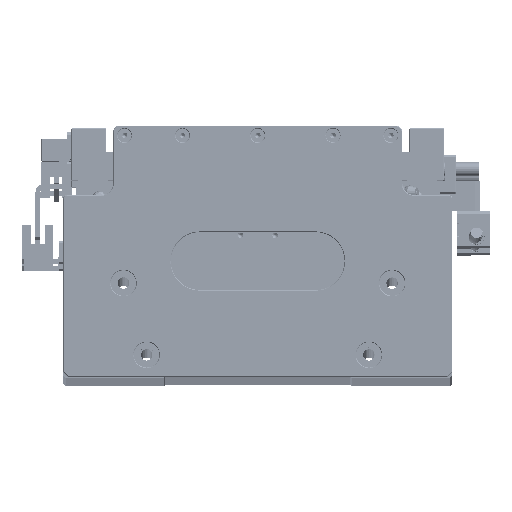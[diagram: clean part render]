
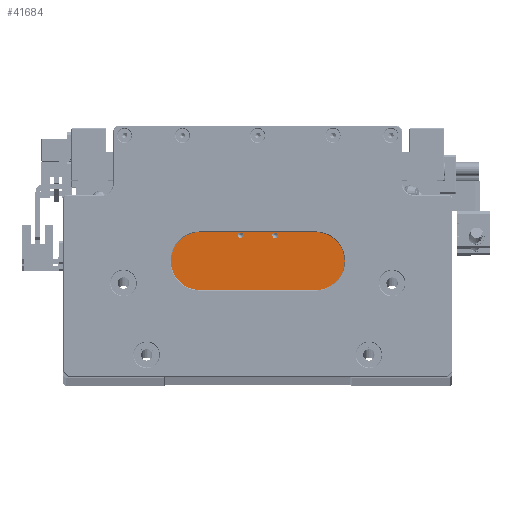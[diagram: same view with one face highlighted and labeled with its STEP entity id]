
A CAD part, top view. The second image highlights one B-rep face of the part: STEP entity #41684.
In plain terms, the highlighted planar face has unit normal (0, 0, 1).
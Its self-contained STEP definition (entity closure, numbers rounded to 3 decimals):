
#278 = LINE ( 'NONE', #29616, #48658 ) ;
#1316 = VERTEX_POINT ( 'NONE', #40761 ) ;
#2680 = DIRECTION ( 'NONE',  ( 1., 0., 0. ) ) ;
#3798 = DIRECTION ( 'NONE',  ( 1., 0., 0. ) ) ;
#4485 = CARTESIAN_POINT ( 'NONE',  ( -33.5, -8., 125. ) ) ;
#5199 = ORIENTED_EDGE ( 'NONE', *, *, #83996, .T. ) ;
#5669 = ORIENTED_EDGE ( 'NONE', *, *, #52669, .T. ) ;
#5983 = DIRECTION ( 'NONE',  ( -1., 0., 0. ) ) ;
#6159 = VERTEX_POINT ( 'NONE', #73689 ) ;
#6492 = FACE_BOUND ( 'NONE', #120025, .T. ) ;
#7037 = VERTEX_POINT ( 'NONE', #68811 ) ;
#7286 = VECTOR ( 'NONE', #122985, 1000. ) ;
#7753 = CARTESIAN_POINT ( 'NONE',  ( 45., 0., 125. ) ) ;
#7803 = CIRCLE ( 'NONE', #58838, 1.25 ) ;
#11745 = ORIENTED_EDGE ( 'NONE', *, *, #114357, .T. ) ;
#12604 = FACE_BOUND ( 'NONE', #106944, .T. ) ;
#14253 = VECTOR ( 'NONE', #5983, 1000. ) ;
#15683 = ORIENTED_EDGE ( 'NONE', *, *, #28802, .T. ) ;
#16569 = LINE ( 'NONE', #35277, #64950 ) ;
#16922 = DIRECTION ( 'NONE',  ( 0., 0., -1. ) ) ;
#18283 = CIRCLE ( 'NONE', #46241, 1.25 ) ;
#18320 = VECTOR ( 'NONE', #62552, 1000. ) ;
#20164 = ORIENTED_EDGE ( 'NONE', *, *, #33420, .T. ) ;
#20378 = CIRCLE ( 'NONE', #38238, 1.25 ) ;
#21000 = CARTESIAN_POINT ( 'NONE',  ( -8.75, -8., 125. ) ) ;
#21311 = PLANE ( 'NONE',  #29206 ) ;
#26263 = DIRECTION ( 'NONE',  ( 0., 0., -1. ) ) ;
#26567 = CARTESIAN_POINT ( 'NONE',  ( 0., -8., 125. ) ) ;
#27602 = ORIENTED_EDGE ( 'NONE', *, *, #48182, .T. ) ;
#28664 = VERTEX_POINT ( 'NONE', #4485 ) ;
#28802 = EDGE_CURVE ( 'NONE', #48516, #6159, #16569, .T. ) ;
#29206 = AXIS2_PLACEMENT_3D ( 'NONE', #69535, #98706, #40709 ) ;
#29616 = CARTESIAN_POINT ( 'NONE',  ( 0., -8., 125. ) ) ;
#32309 = CARTESIAN_POINT ( 'NONE',  ( -6.25, -8., 125. ) ) ;
#33420 = EDGE_CURVE ( 'NONE', #87506, #62978, #20378, .T. ) ;
#34694 = VERTEX_POINT ( 'NONE', #99723 ) ;
#35277 = CARTESIAN_POINT ( 'NONE',  ( -45., 0., 125. ) ) ;
#35624 = EDGE_LOOP ( 'NONE', ( #27602, #15683, #92688, #5199, #58319, #121845, #11745, #92693 ) ) ;
#36154 = EDGE_CURVE ( 'NONE', #34694, #119521, #83395, .T. ) ;
#38238 = AXIS2_PLACEMENT_3D ( 'NONE', #118533, #60631, #2680 ) ;
#39974 = ORIENTED_EDGE ( 'NONE', *, *, #48389, .T. ) ;
#40709 = DIRECTION ( 'NONE',  ( 1., 0., 0. ) ) ;
#40761 = CARTESIAN_POINT ( 'NONE',  ( -33.5, 0., 125. ) ) ;
#41684 = ADVANCED_FACE ( 'NONE', ( #63978, #12604, #6492 ), #21311, .T. ) ;
#41876 = LINE ( 'NONE', #7753, #64566 ) ;
#42915 = CARTESIAN_POINT ( 'NONE',  ( 33.5, 0., 125. ) ) ;
#46241 = AXIS2_PLACEMENT_3D ( 'NONE', #84260, #26263, #93979 ) ;
#47028 = DIRECTION ( 'NONE',  ( 0., 1., 0. ) ) ;
#47511 = VECTOR ( 'NONE', #81850, 1000. ) ;
#48042 = EDGE_CURVE ( 'NONE', #55082, #102262, #63829, .T. ) ;
#48182 = EDGE_CURVE ( 'NONE', #28664, #48516, #278, .T. ) ;
#48389 = EDGE_CURVE ( 'NONE', #62978, #87506, #7803, .T. ) ;
#48516 = VERTEX_POINT ( 'NONE', #73548 ) ;
#48658 = VECTOR ( 'NONE', #78305, 1000. ) ;
#49793 = CARTESIAN_POINT ( 'NONE',  ( 8.75, -8., 125. ) ) ;
#52669 = EDGE_CURVE ( 'NONE', #102262, #55082, #18283, .T. ) ;
#55082 = VERTEX_POINT ( 'NONE', #32309 ) ;
#57645 = EDGE_CURVE ( 'NONE', #72693, #6159, #67186, .T. ) ;
#58319 = ORIENTED_EDGE ( 'NONE', *, *, #71430, .T. ) ;
#58714 = LINE ( 'NONE', #26567, #7286 ) ;
#58838 = AXIS2_PLACEMENT_3D ( 'NONE', #119651, #61702, #3798 ) ;
#58932 = CARTESIAN_POINT ( 'NONE',  ( 33.5, 0., 125. ) ) ;
#60631 = DIRECTION ( 'NONE',  ( 0., 0., -1. ) ) ;
#60962 = CARTESIAN_POINT ( 'NONE',  ( 45., -40.2, 125. ) ) ;
#61251 = AXIS2_PLACEMENT_3D ( 'NONE', #74885, #16922, #84614 ) ;
#61702 = DIRECTION ( 'NONE',  ( 0., 0., -1. ) ) ;
#62552 = DIRECTION ( 'NONE',  ( 0., -1., 0. ) ) ;
#62734 = CARTESIAN_POINT ( 'NONE',  ( 45., -40.2, 125. ) ) ;
#62978 = VERTEX_POINT ( 'NONE', #49793 ) ;
#63829 = CIRCLE ( 'NONE', #61251, 1.25 ) ;
#63978 = FACE_OUTER_BOUND ( 'NONE', #35624, .T. ) ;
#64566 = VECTOR ( 'NONE', #47028, 1000. ) ;
#64950 = VECTOR ( 'NONE', #93287, 1000. ) ;
#66732 = LINE ( 'NONE', #91783, #18320 ) ;
#67186 = LINE ( 'NONE', #62734, #47511 ) ;
#68713 = LINE ( 'NONE', #93140, #14253 ) ;
#68811 = CARTESIAN_POINT ( 'NONE',  ( 45., -8., 125. ) ) ;
#69535 = CARTESIAN_POINT ( 'NONE',  ( 0., 0., 125. ) ) ;
#71430 = EDGE_CURVE ( 'NONE', #7037, #34694, #58714, .T. ) ;
#72693 = VERTEX_POINT ( 'NONE', #60962 ) ;
#73548 = CARTESIAN_POINT ( 'NONE',  ( -45., -8., 125. ) ) ;
#73689 = CARTESIAN_POINT ( 'NONE',  ( -45., -40.2, 125. ) ) ;
#74885 = CARTESIAN_POINT ( 'NONE',  ( -7.5, -8., 125. ) ) ;
#78305 = DIRECTION ( 'NONE',  ( -1., 0., 0. ) ) ;
#81850 = DIRECTION ( 'NONE',  ( -1., 0., 0. ) ) ;
#83395 = LINE ( 'NONE', #42915, #106015 ) ;
#83996 = EDGE_CURVE ( 'NONE', #72693, #7037, #41876, .T. ) ;
#84260 = CARTESIAN_POINT ( 'NONE',  ( -7.5, -8., 125. ) ) ;
#84614 = DIRECTION ( 'NONE',  ( 1., 0., 0. ) ) ;
#87506 = VERTEX_POINT ( 'NONE', #88544 ) ;
#88544 = CARTESIAN_POINT ( 'NONE',  ( 6.25, -8., 125. ) ) ;
#91218 = DIRECTION ( 'NONE',  ( 0., 1., 0. ) ) ;
#91783 = CARTESIAN_POINT ( 'NONE',  ( -33.5, 0., 125. ) ) ;
#92688 = ORIENTED_EDGE ( 'NONE', *, *, #57645, .F. ) ;
#92693 = ORIENTED_EDGE ( 'NONE', *, *, #103448, .T. ) ;
#93140 = CARTESIAN_POINT ( 'NONE',  ( 0., 0., 125. ) ) ;
#93287 = DIRECTION ( 'NONE',  ( 0., -1., 0. ) ) ;
#93979 = DIRECTION ( 'NONE',  ( 1., 0., 0. ) ) ;
#98706 = DIRECTION ( 'NONE',  ( 0., 0., 1. ) ) ;
#99723 = CARTESIAN_POINT ( 'NONE',  ( 33.5, -8., 125. ) ) ;
#102262 = VERTEX_POINT ( 'NONE', #21000 ) ;
#103448 = EDGE_CURVE ( 'NONE', #1316, #28664, #66732, .T. ) ;
#106015 = VECTOR ( 'NONE', #91218, 1000. ) ;
#106699 = ORIENTED_EDGE ( 'NONE', *, *, #48042, .T. ) ;
#106944 = EDGE_LOOP ( 'NONE', ( #39974, #20164 ) ) ;
#114357 = EDGE_CURVE ( 'NONE', #119521, #1316, #68713, .T. ) ;
#118533 = CARTESIAN_POINT ( 'NONE',  ( 7.5, -8., 125. ) ) ;
#119521 = VERTEX_POINT ( 'NONE', #58932 ) ;
#119651 = CARTESIAN_POINT ( 'NONE',  ( 7.5, -8., 125. ) ) ;
#120025 = EDGE_LOOP ( 'NONE', ( #106699, #5669 ) ) ;
#121845 = ORIENTED_EDGE ( 'NONE', *, *, #36154, .T. ) ;
#122985 = DIRECTION ( 'NONE',  ( -1., 0., 0. ) ) ;
